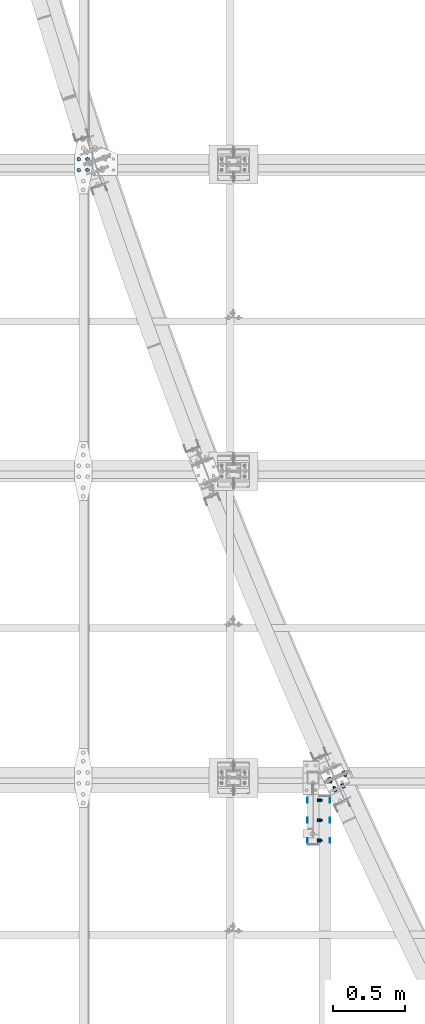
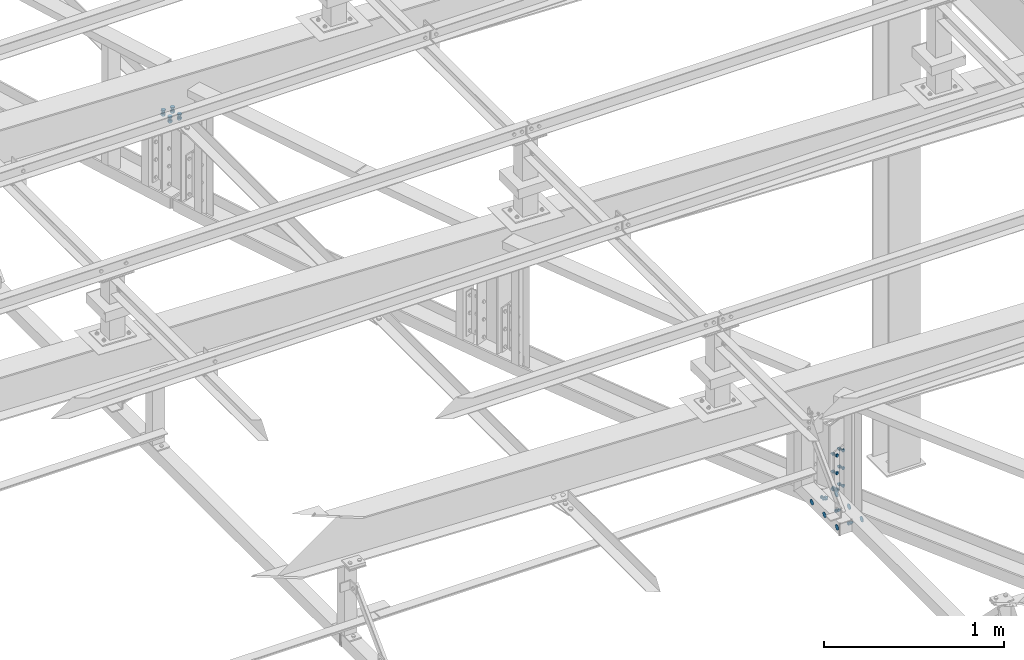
# One storey, part 49 of 3134: 6 mechanical fasteners, 5 elements without a shape of their own.
"""IFC2X3 building model written with IfcOpenShell, lengths in millimetres."""

from ifc_helpers import new_model, si_unit, frame, origin_with_axes, place, context, subcontext, project, spatial, faceted_brep, source, transform, mapped, material, type_object, element, aggregate, save


model = new_model("IFC2X3")

# Units and contexts
model_context = context("Model", 3, precision=1e-05, world=origin_with_axes())
body_context = subcontext(model_context, "Body", "Model", "MODEL_VIEW")
ifc_project = project(units=[si_unit("LENGTHUNIT", "METRE", prefix="MILLI"), si_unit("AREAUNIT", "SQUARE_METRE"), si_unit("VOLUMEUNIT", "CUBIC_METRE"), si_unit("MASSUNIT", "GRAM", prefix="KILO"), si_unit("TIMEUNIT", "SECOND"), si_unit("PLANEANGLEUNIT", "RADIAN"), si_unit("SOLIDANGLEUNIT", "STERADIAN"), si_unit("THERMODYNAMICTEMPERATUREUNIT", "DEGREE_CELSIUS"), si_unit("LUMINOUSINTENSITYUNIT", "LUMEN")], contexts=[model_context])

# Site, building, storey
site_placement = place(None, origin_with_axes())
site = spatial("IfcSite", under=ifc_project, at=site_placement, CompositionType="ELEMENT")
building_placement = place(site_placement, origin_with_axes())
building = spatial("IfcBuilding", under=site, at=building_placement, Name="Undefined", CompositionType="ELEMENT")
storey_placement = place(building_placement, origin_with_axes())
storey = spatial("IfcBuildingStorey", under=building, at=storey_placement, Name="Undefined", CompositionType="ELEMENT", Elevation=0.0)

# Assembly, mechanical fastener
assembly_1_placement = place(storey_placement, origin_with_axes())
assembly_1 = element("IfcElementAssembly", 1, at=assembly_1_placement, inside=storey, AssemblyPlace="NOTDEFINED", PredefinedType="RIGID_FRAME")
ifc_material = material(Name="8.8")
mechanical_fastener_type = type_object("IfcMechanicalFastenerType", Name="Bolt assembly")
shared_shape_1 = source(origin_with_axes(), body_context, "Body", "Brep", [
    faceted_brep([(16.5, -3.0, 0.0), (14.289419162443, -3.0, 8.25000000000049), (8.24999999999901, -3.0, 14.2894191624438), (-1.70995436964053e-12, -3.0, 16.5), (-8.25000000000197, -3.0, 14.2894191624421), (-14.2894191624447, -3.0, 8.24999999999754), (-16.5, -3.0, -3.41990873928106e-12), (-14.2894191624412, -3.0, -8.25000000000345), (-8.24999999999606, -3.0, -14.2894191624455), (5.11154442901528e-12, -3.0, -16.5), (8.25000000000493, -3.0, -14.2894191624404), (14.2894191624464, -3.0, -8.24999999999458), (14.2894191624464, 0.1, -8.24999999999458), (8.25000000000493, 0.1, -14.2894191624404), (5.11154442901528e-12, 0.1, -16.5), (-8.24999999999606, 0.1, -14.2894191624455), (-14.2894191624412, 0.1, -8.25000000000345), (-16.5, 0.1, -3.41990873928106e-12), (-14.2894191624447, 0.1, 8.24999999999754), (-8.25000000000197, 0.1, 14.2894191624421), (-1.70995436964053e-12, 0.1, 16.5), (8.24999999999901, 0.1, 14.2894191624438), (14.289419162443, 0.1, 8.25000000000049), (16.5, 0.1, 0.0)], [[[0, 1, 2, 3, 4, 5, 6, 7, 8, 9, 10, 11]], [[12, 13, 14, 15, 16, 17, 18, 19, 20, 21, 22, 23]], [[0, 23, 22, 1]], [[1, 22, 21, 2]], [[2, 21, 20, 3]], [[3, 20, 19, 4]], [[4, 19, 18, 5]], [[5, 18, 17, 6]], [[6, 17, 16, 7]], [[7, 16, 15, 8]], [[8, 15, 14, 9]], [[9, 14, 13, 10]], [[10, 13, 12, 11]], [[11, 12, 23, 0]]]),
])
mechanical_fastener_1_placement = place(assembly_1_placement, frame((6365.0, 15035.0, 3080.0), z_axis=(0.0, 0.0, 1.0), x_axis=(0.0, -1.0, 0.0)))
mechanical_fastener_1 = element("IfcMechanicalFastener", 2, at=mechanical_fastener_1_placement, type_object=mechanical_fastener_type, material=ifc_material, Name="Bolt assembly", NominalDiameter=30.0, NominalLength=3.0, context=body_context, shape_type="MappedRepresentation", body=[
    mapped(shared_shape_1, transform((0.0, 0.0, 0.0))),
    mapped(shared_shape_1, transform((140.0, 0.0, 0.0))),
    mapped(shared_shape_1, transform((280.0, 0.0, 0.0))),
])
aggregate(assembly_1, [mechanical_fastener_1])

# Assembly, mechanical fasteners
assembly_2_placement = place(storey_placement, origin_with_axes())
assembly_2 = element("IfcElementAssembly", 3, at=assembly_2_placement, inside=storey, AssemblyPlace="NOTDEFINED", PredefinedType="RIGID_FRAME")
shared_shape_2 = source(origin_with_axes(), body_context, "Body", "Brep", [
    faceted_brep([(16.5, 0.0, 0.0), (14.289419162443, 0.0, 8.25000000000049), (8.24999999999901, 0.0, 14.2894191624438), (-1.70995436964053e-12, 0.0, 16.5), (-8.25000000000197, 0.0, 14.2894191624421), (-14.2894191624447, 0.0, 8.24999999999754), (-16.5, 0.0, -3.41990873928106e-12), (-14.2894191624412, 0.0, -8.25000000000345), (-8.24999999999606, 0.0, -14.2894191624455), (5.11154442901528e-12, 0.0, -16.5), (8.25000000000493, 0.0, -14.2894191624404), (14.2894191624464, 0.0, -8.24999999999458), (14.2894191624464, 3.1, -8.24999999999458), (8.25000000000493, 3.1, -14.2894191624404), (5.11154442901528e-12, 3.1, -16.5), (-8.24999999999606, 3.1, -14.2894191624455), (-14.2894191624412, 3.1, -8.25000000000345), (-16.5, 3.1, -3.41990873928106e-12), (-14.2894191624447, 3.1, 8.24999999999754), (-8.25000000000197, 3.1, 14.2894191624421), (-1.70995436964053e-12, 3.1, 16.5), (8.24999999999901, 3.1, 14.2894191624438), (14.289419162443, 3.1, 8.25000000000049), (16.5, 3.1, 0.0)], [[[0, 1, 2, 3, 4, 5, 6, 7, 8, 9, 10, 11]], [[12, 13, 14, 15, 16, 17, 18, 19, 20, 21, 22, 23]], [[0, 23, 22, 1]], [[1, 22, 21, 2]], [[2, 21, 20, 3]], [[3, 20, 19, 4]], [[4, 19, 18, 5]], [[5, 18, 17, 6]], [[6, 17, 16, 7]], [[7, 16, 15, 8]], [[8, 15, 14, 9]], [[9, 14, 13, 10]], [[10, 13, 12, 11]], [[11, 12, 23, 0]]]),
])
mechanical_fastener_2_placement = place(assembly_2_placement, frame((6205.0, 15035.0, 3080.0), z_axis=(0.0, 0.0, 1.0), x_axis=(0.0, -1.0, 0.0)))
mechanical_fastener_2 = element("IfcMechanicalFastener", 4, at=mechanical_fastener_2_placement, type_object=mechanical_fastener_type, material=ifc_material, Name="Bolt assembly", NominalDiameter=30.0, NominalLength=3.0, context=body_context, shape_type="MappedRepresentation", body=[
    mapped(shared_shape_2, transform((0.0, 0.0, 0.0))),
    mapped(shared_shape_2, transform((140.0, 0.0, 0.0))),
    mapped(shared_shape_2, transform((280.0, 0.0, 0.0))),
])
shared_shape_3 = source(origin_with_axes(), body_context, "Body", "Brep", [
    faceted_brep([(10.9696551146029, -11.0, 0.0), (5.48482755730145, -11.0, 9.5), (-5.48482755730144, -11.0, 9.5), (-10.9696551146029, -11.0, 1.34339530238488e-15), (-5.48482755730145, -11.0, -9.5), (5.48482755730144, -11.0, -9.50000000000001), (5.48482755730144, -3.0, -9.50000000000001), (-5.48482755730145, -3.0, -9.5), (-10.9696551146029, -3.0, 1.34339530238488e-15), (-5.48482755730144, -3.0, 9.5), (5.48482755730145, -3.0, 9.5), (10.9696551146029, -3.0, 0.0), (6.0, -3.0, 0.0), (5.19615242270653, -3.0, 3.00000000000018), (2.99999999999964, -3.0, 5.19615242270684), (-6.21801588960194e-13, -3.0, 6.0), (-3.00000000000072, -3.0, 5.19615242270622), (-5.19615242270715, -3.0, 2.9999999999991), (-6.0, -3.0, -1.24360317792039e-12), (-5.19615242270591, -3.0, -3.00000000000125), (-2.99999999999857, -3.0, -5.19615242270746), (1.85874342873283e-12, -3.0, -6.0), (3.00000000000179, -3.0, -5.1961524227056), (5.19615242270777, -3.0, -2.99999999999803), (5.19615242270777, 22.0, -2.99999999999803), (3.00000000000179, 22.0, -5.1961524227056), (1.85874342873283e-12, 22.0, -6.0), (-2.99999999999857, 22.0, -5.19615242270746), (-5.19615242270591, 22.0, -3.00000000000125), (-6.0, 22.0, -1.24360317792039e-12), (-5.19615242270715, 22.0, 2.9999999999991), (-3.00000000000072, 22.0, 5.19615242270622), (-6.21801588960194e-13, 22.0, 6.0), (2.99999999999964, 22.0, 5.19615242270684), (5.19615242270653, 22.0, 3.00000000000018), (6.0, 22.0, 0.0), (10.9696551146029, 3.00000000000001, 0.0), (5.48482755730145, 3.00000000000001, 9.5), (-5.48482755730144, 3.00000000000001, 9.5), (-10.9696551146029, 3.00000000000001, 1.34339530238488e-15), (-5.48482755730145, 3.00000000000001, -9.5), (5.48482755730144, 3.00000000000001, -9.50000000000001), (5.48482755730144, 13.0, -9.50000000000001), (-5.48482755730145, 13.0, -9.5), (-10.9696551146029, 13.0, 1.34339530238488e-15), (-5.48482755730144, 13.0, 9.5), (5.48482755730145, 13.0, 9.5), (10.9696551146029, 13.0, 0.0)], [[[0, 1, 2, 3, 4, 5]], [[6, 7, 8, 9, 10, 11]], [[0, 11, 10, 1]], [[1, 10, 9, 2]], [[2, 9, 8, 3]], [[3, 8, 7, 4]], [[4, 7, 6, 5]], [[5, 6, 11, 0]], [[12, 13, 14, 15, 16, 17, 18, 19, 20, 21, 22, 23]], [[24, 25, 26, 27, 28, 29, 30, 31, 32, 33, 34, 35]], [[12, 35, 34, 13]], [[13, 34, 33, 14]], [[14, 33, 32, 15]], [[15, 32, 31, 16]], [[16, 31, 30, 17]], [[17, 30, 29, 18]], [[18, 29, 28, 19]], [[19, 28, 27, 20]], [[20, 27, 26, 21]], [[21, 26, 25, 22]], [[22, 25, 24, 23]], [[23, 24, 35, 12]], [[36, 37, 38, 39, 40, 41]], [[42, 43, 44, 45, 46, 47]], [[36, 47, 46, 37]], [[37, 46, 45, 38]], [[38, 45, 44, 39]], [[39, 44, 43, 40]], [[40, 43, 42, 41]], [[41, 42, 47, 36]]]),
    faceted_brep([(7.0, -0.1, 0.0), (6.06217782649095, -0.1, 3.50000000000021), (3.49999999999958, -0.1, 6.06217782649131), (-7.25435187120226e-13, -0.1, 7.0), (-3.50000000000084, -0.1, 6.06217782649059), (-6.06217782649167, -0.1, 3.49999999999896), (-7.0, -0.1, -1.45087037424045e-12), (-6.06217782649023, -0.1, -3.50000000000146), (-3.49999999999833, -0.1, -6.06217782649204), (2.1685340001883e-12, -0.1, -7.0), (3.50000000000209, -0.1, -6.06217782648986), (6.0621778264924, -0.1, -3.4999999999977), (6.0621778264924, 3.0, -3.4999999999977), (3.50000000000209, 3.0, -6.06217782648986), (2.1685340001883e-12, 3.0, -7.0), (-3.49999999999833, 3.0, -6.06217782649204), (-6.06217782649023, 3.0, -3.50000000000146), (-7.0, 3.0, -1.45087037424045e-12), (-6.06217782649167, 3.0, 3.49999999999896), (-3.50000000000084, 3.0, 6.06217782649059), (-7.25435187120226e-13, 3.0, 7.0), (3.49999999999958, 3.0, 6.06217782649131), (6.06217782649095, 3.0, 3.50000000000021), (7.0, 3.0, 0.0), (7.0, -2.9, 0.0), (6.06217782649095, -2.9, 3.50000000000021), (3.49999999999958, -2.9, 6.06217782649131), (-7.25435187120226e-13, -2.9, 7.0), (-3.50000000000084, -2.9, 6.06217782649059), (-6.06217782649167, -2.9, 3.49999999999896), (-7.0, -2.9, -1.45087037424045e-12), (-6.06217782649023, -2.9, -3.50000000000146), (-3.49999999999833, -2.9, -6.06217782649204), (2.1685340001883e-12, -2.9, -7.0), (3.50000000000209, -2.9, -6.06217782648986), (6.0621778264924, -2.9, -3.4999999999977), (6.0621778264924, 0.0999999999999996, -3.4999999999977), (3.50000000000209, 0.0999999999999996, -6.06217782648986), (2.1685340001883e-12, 0.0999999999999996, -7.0), (-3.49999999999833, 0.0999999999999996, -6.06217782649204), (-6.06217782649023, 0.0999999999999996, -3.50000000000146), (-7.0, 0.0999999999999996, -1.45087037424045e-12), (-6.06217782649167, 0.0999999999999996, 3.49999999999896), (-3.50000000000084, 0.0999999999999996, 6.06217782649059), (-7.25435187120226e-13, 0.0999999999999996, 7.0), (3.49999999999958, 0.0999999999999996, 6.06217782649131), (6.06217782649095, 0.0999999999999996, 3.50000000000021), (7.0, 0.0999999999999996, 0.0)], [[[0, 1, 2, 3, 4, 5, 6, 7, 8, 9, 10, 11]], [[12, 13, 14, 15, 16, 17, 18, 19, 20, 21, 22, 23]], [[0, 23, 22, 1]], [[1, 22, 21, 2]], [[2, 21, 20, 3]], [[3, 20, 19, 4]], [[4, 19, 18, 5]], [[5, 18, 17, 6]], [[6, 17, 16, 7]], [[7, 16, 15, 8]], [[8, 15, 14, 9]], [[9, 14, 13, 10]], [[10, 13, 12, 11]], [[11, 12, 23, 0]], [[24, 25, 26, 27, 28, 29, 30, 31, 32, 33, 34, 35]], [[36, 37, 38, 39, 40, 41, 42, 43, 44, 45, 46, 47]], [[24, 47, 46, 25]], [[25, 46, 45, 26]], [[26, 45, 44, 27]], [[27, 44, 43, 28]], [[28, 43, 42, 29]], [[29, 42, 41, 30]], [[30, 41, 40, 31]], [[31, 40, 39, 32]], [[32, 39, 38, 33]], [[33, 38, 37, 34]], [[34, 37, 36, 35]], [[35, 36, 47, 24]]]),
])
mechanical_fastener_3_placement = place(assembly_2_placement, frame((6285.0, 15035.0, 3080.0), z_axis=(0.0, 0.0, 1.0), x_axis=(0.0, -1.0, 0.0)))
mechanical_fastener_3 = element("IfcMechanicalFastener", 5, at=mechanical_fastener_3_placement, type_object=mechanical_fastener_type, material=ifc_material, Name="Bolt assembly", NominalDiameter=12.0, NominalLength=25.0, context=body_context, shape_type="MappedRepresentation", body=[
    mapped(shared_shape_3, transform((0.0, 0.0, 0.0))),
    mapped(shared_shape_3, transform((140.0, 0.0, 0.0))),
    mapped(shared_shape_3, transform((280.0, 0.0, 0.0))),
])
aggregate(assembly_2, [mechanical_fastener_2, mechanical_fastener_3])

# Assembly, mechanical fastener
assembly_3_placement = place(storey_placement, origin_with_axes())
assembly_3 = element("IfcElementAssembly", 6, at=assembly_3_placement, inside=storey, Name="HEA160", AssemblyPlace="NOTDEFINED", PredefinedType="RIGID_FRAME")
shared_shape_4 = source(origin_with_axes(), body_context, "Body", "Brep", [
    faceted_brep([(10.9696551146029, -16.0, 0.0), (5.48482755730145, -16.0, 9.5), (-5.48482755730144, -16.0, 9.5), (-10.9696551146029, -16.0, 1.34339530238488e-15), (-5.48482755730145, -16.0, -9.5), (5.48482755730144, -16.0, -9.50000000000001), (5.48482755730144, -8.0, -9.50000000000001), (-5.48482755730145, -8.0, -9.5), (-10.9696551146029, -8.0, 1.34339530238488e-15), (-5.48482755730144, -8.0, 9.5), (5.48482755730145, -8.0, 9.5), (10.9696551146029, -8.0, 0.0), (6.0, -8.0, 0.0), (5.19615242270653, -8.0, 3.00000000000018), (2.99999999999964, -8.0, 5.19615242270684), (-6.21801588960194e-13, -8.0, 6.0), (-3.00000000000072, -8.0, 5.19615242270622), (-5.19615242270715, -8.0, 2.9999999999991), (-6.0, -8.0, -1.24360317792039e-12), (-5.19615242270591, -8.0, -3.00000000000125), (-2.99999999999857, -8.0, -5.19615242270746), (1.85874342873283e-12, -8.0, -6.0), (3.00000000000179, -8.0, -5.1961524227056), (5.19615242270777, -8.0, -2.99999999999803), (5.19615242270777, 27.0, -2.99999999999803), (3.00000000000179, 27.0, -5.1961524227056), (1.85874342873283e-12, 27.0, -6.0), (-2.99999999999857, 27.0, -5.19615242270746), (-5.19615242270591, 27.0, -3.00000000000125), (-6.0, 27.0, -1.24360317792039e-12), (-5.19615242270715, 27.0, 2.9999999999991), (-3.00000000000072, 27.0, 5.19615242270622), (-6.21801588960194e-13, 27.0, 6.0), (2.99999999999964, 27.0, 5.19615242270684), (5.19615242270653, 27.0, 3.00000000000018), (6.0, 27.0, 0.0), (10.9696551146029, 9.00000000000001, 0.0), (5.48482755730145, 9.00000000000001, 9.5), (-5.48482755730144, 9.00000000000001, 9.5), (-10.9696551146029, 9.00000000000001, 1.34339530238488e-15), (-5.48482755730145, 9.00000000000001, -9.5), (5.48482755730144, 9.00000000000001, -9.50000000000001), (5.48482755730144, 19.0, -9.50000000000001), (-5.48482755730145, 19.0, -9.5), (-10.9696551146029, 19.0, 1.34339530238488e-15), (-5.48482755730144, 19.0, 9.5), (5.48482755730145, 19.0, 9.5), (10.9696551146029, 19.0, 0.0)], [[[0, 1, 2, 3, 4, 5]], [[6, 7, 8, 9, 10, 11]], [[0, 11, 10, 1]], [[1, 10, 9, 2]], [[2, 9, 8, 3]], [[3, 8, 7, 4]], [[4, 7, 6, 5]], [[5, 6, 11, 0]], [[12, 13, 14, 15, 16, 17, 18, 19, 20, 21, 22, 23]], [[24, 25, 26, 27, 28, 29, 30, 31, 32, 33, 34, 35]], [[12, 35, 34, 13]], [[13, 34, 33, 14]], [[14, 33, 32, 15]], [[15, 32, 31, 16]], [[16, 31, 30, 17]], [[17, 30, 29, 18]], [[18, 29, 28, 19]], [[19, 28, 27, 20]], [[20, 27, 26, 21]], [[21, 26, 25, 22]], [[22, 25, 24, 23]], [[23, 24, 35, 12]], [[36, 37, 38, 39, 40, 41]], [[42, 43, 44, 45, 46, 47]], [[36, 47, 46, 37]], [[37, 46, 45, 38]], [[38, 45, 44, 39]], [[39, 44, 43, 40]], [[40, 43, 42, 41]], [[41, 42, 47, 36]]]),
    faceted_brep([(7.0, -7.9, 0.0), (6.06217782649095, -7.9, 3.50000000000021), (3.49999999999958, -7.9, 6.06217782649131), (-7.25435187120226e-13, -7.9, 7.0), (-3.50000000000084, -7.9, 6.06217782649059), (-6.06217782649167, -7.9, 3.49999999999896), (-7.0, -7.9, -1.45087037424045e-12), (-6.06217782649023, -7.9, -3.50000000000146), (-3.49999999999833, -7.9, -6.06217782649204), (2.1685340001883e-12, -7.9, -7.0), (3.50000000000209, -7.9, -6.06217782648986), (6.0621778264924, -7.9, -3.4999999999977), (6.0621778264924, 0.0999999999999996, -3.4999999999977), (3.50000000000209, 0.0999999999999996, -6.06217782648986), (2.1685340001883e-12, 0.0999999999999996, -7.0), (-3.49999999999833, 0.0999999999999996, -6.06217782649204), (-6.06217782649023, 0.0999999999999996, -3.50000000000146), (-7.0, 0.0999999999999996, -1.45087037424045e-12), (-6.06217782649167, 0.0999999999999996, 3.49999999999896), (-3.50000000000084, 0.0999999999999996, 6.06217782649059), (-7.25435187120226e-13, 0.0999999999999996, 7.0), (3.49999999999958, 0.0999999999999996, 6.06217782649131), (6.06217782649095, 0.0999999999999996, 3.50000000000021), (7.0, 0.0999999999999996, 0.0), (7.0, -0.1, 0.0), (6.06217782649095, -0.1, 3.50000000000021), (3.49999999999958, -0.1, 6.06217782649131), (-7.25435187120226e-13, -0.1, 7.0), (-3.50000000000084, -0.1, 6.06217782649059), (-6.06217782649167, -0.1, 3.49999999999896), (-7.0, -0.1, -1.45087037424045e-12), (-6.06217782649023, -0.1, -3.50000000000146), (-3.49999999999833, -0.1, -6.06217782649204), (2.1685340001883e-12, -0.1, -7.0), (3.50000000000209, -0.1, -6.06217782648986), (6.0621778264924, -0.1, -3.4999999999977), (6.0621778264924, 9.00000000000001, -3.4999999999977), (3.50000000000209, 9.00000000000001, -6.06217782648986), (2.1685340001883e-12, 9.00000000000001, -7.0), (-3.49999999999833, 9.00000000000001, -6.06217782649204), (-6.06217782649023, 9.00000000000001, -3.50000000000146), (-7.0, 9.00000000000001, -1.45087037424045e-12), (-6.06217782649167, 9.00000000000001, 3.49999999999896), (-3.50000000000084, 9.00000000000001, 6.06217782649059), (-7.25435187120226e-13, 9.00000000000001, 7.0), (3.49999999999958, 9.00000000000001, 6.06217782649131), (6.06217782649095, 9.00000000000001, 3.50000000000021), (7.0, 9.00000000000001, 0.0)], [[[0, 1, 2, 3, 4, 5, 6, 7, 8, 9, 10, 11]], [[12, 13, 14, 15, 16, 17, 18, 19, 20, 21, 22, 23]], [[0, 23, 22, 1]], [[1, 22, 21, 2]], [[2, 21, 20, 3]], [[3, 20, 19, 4]], [[4, 19, 18, 5]], [[5, 18, 17, 6]], [[6, 17, 16, 7]], [[7, 16, 15, 8]], [[8, 15, 14, 9]], [[9, 14, 13, 10]], [[10, 13, 12, 11]], [[11, 12, 23, 0]], [[24, 25, 26, 27, 28, 29, 30, 31, 32, 33, 34, 35]], [[36, 37, 38, 39, 40, 41, 42, 43, 44, 45, 46, 47]], [[24, 47, 46, 25]], [[25, 46, 45, 26]], [[26, 45, 44, 27]], [[27, 44, 43, 28]], [[28, 43, 42, 29]], [[29, 42, 41, 30]], [[30, 41, 40, 31]], [[31, 40, 39, 32]], [[32, 39, 38, 33]], [[33, 38, 37, 34]], [[34, 37, 36, 35]], [[35, 36, 47, 24]]]),
])
mechanical_fastener_4_placement = place(assembly_3_placement, frame((6398.11553624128, 15108.3845316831, 3170.0), z_axis=(0.0, 0.0, 1.0), x_axis=(0.911760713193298, 0.410721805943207, 0.0)))
mechanical_fastener_4 = element("IfcMechanicalFastener", 7, at=mechanical_fastener_4_placement, type_object=mechanical_fastener_type, material=ifc_material, Name="Bolt assembly", NominalDiameter=12.0, NominalLength=35.0, context=body_context, shape_type="MappedRepresentation", body=[
    mapped(shared_shape_4, transform((0.0, 0.0, -120.0))),
    mapped(shared_shape_4, transform((60.0000000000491, 0.0, -120.0))),
    mapped(shared_shape_4, transform((0.0, 0.0, 0.0))),
    mapped(shared_shape_4, transform((59.9999999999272, 0.0, 5.40239852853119e-10))),
    mapped(shared_shape_4, transform((0.0, 0.0, 120.0))),
    mapped(shared_shape_4, transform((60.0000000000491, 0.0, 120.0))),
])
aggregate(assembly_3, [mechanical_fastener_4])

assembly_4_placement = place(storey_placement, origin_with_axes())
assembly_4 = element("IfcElementAssembly", 8, at=assembly_4_placement, inside=storey, Name="UPN200", AssemblyPlace="NOTDEFINED", PredefinedType="RIGID_FRAME")
shared_shape_5 = source(origin_with_axes(), body_context, "Body", "Brep", [
    faceted_brep([(10.9696551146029, -18.0, 0.0), (5.48482755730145, -18.0, 9.5), (-5.48482755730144, -18.0, 9.5), (-10.9696551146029, -18.0, 1.34339530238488e-15), (-5.48482755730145, -18.0, -9.5), (5.48482755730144, -18.0, -9.50000000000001), (5.48482755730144, -10.0, -9.50000000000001), (-5.48482755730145, -10.0, -9.5), (-10.9696551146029, -10.0, 1.34339530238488e-15), (-5.48482755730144, -10.0, 9.5), (5.48482755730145, -10.0, 9.5), (10.9696551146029, -10.0, 0.0), (6.0, -10.0, 0.0), (5.19615242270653, -10.0, 3.00000000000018), (2.99999999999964, -10.0, 5.19615242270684), (-6.21801588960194e-13, -10.0, 6.0), (-3.00000000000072, -10.0, 5.19615242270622), (-5.19615242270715, -10.0, 2.9999999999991), (-6.0, -10.0, -1.24360317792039e-12), (-5.19615242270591, -10.0, -3.00000000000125), (-2.99999999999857, -10.0, -5.19615242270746), (1.85874342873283e-12, -10.0, -6.0), (3.00000000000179, -10.0, -5.1961524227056), (5.19615242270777, -10.0, -2.99999999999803), (5.19615242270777, 24.9999999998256, -2.99999999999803), (3.00000000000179, 24.9999999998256, -5.1961524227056), (1.85874342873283e-12, 24.9999999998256, -6.0), (-2.99999999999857, 24.9999999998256, -5.19615242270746), (-5.19615242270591, 24.9999999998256, -3.00000000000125), (-6.0, 24.9999999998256, -1.24360317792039e-12), (-5.19615242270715, 24.9999999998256, 2.9999999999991), (-3.00000000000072, 24.9999999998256, 5.19615242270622), (-6.21801588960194e-13, 24.9999999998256, 6.0), (2.99999999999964, 24.9999999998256, 5.19615242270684), (5.19615242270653, 24.9999999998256, 3.00000000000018), (6.0, 24.9999999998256, 0.0), (10.9696551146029, 10.0, 0.0), (5.48482755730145, 10.0, 9.5), (-5.48482755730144, 10.0, 9.5), (-10.9696551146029, 10.0, 1.34339530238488e-15), (-5.48482755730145, 10.0, -9.5), (5.48482755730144, 10.0, -9.50000000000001), (5.48482755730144, 20.0, -9.50000000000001), (-5.48482755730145, 20.0, -9.5), (-10.9696551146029, 20.0, 1.34339530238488e-15), (-5.48482755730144, 20.0, 9.5), (5.48482755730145, 20.0, 9.5), (10.9696551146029, 20.0, 0.0)], [[[0, 1, 2, 3, 4, 5]], [[6, 7, 8, 9, 10, 11]], [[0, 11, 10, 1]], [[1, 10, 9, 2]], [[2, 9, 8, 3]], [[3, 8, 7, 4]], [[4, 7, 6, 5]], [[5, 6, 11, 0]], [[12, 13, 14, 15, 16, 17, 18, 19, 20, 21, 22, 23]], [[24, 25, 26, 27, 28, 29, 30, 31, 32, 33, 34, 35]], [[12, 35, 34, 13]], [[13, 34, 33, 14]], [[14, 33, 32, 15]], [[15, 32, 31, 16]], [[16, 31, 30, 17]], [[17, 30, 29, 18]], [[18, 29, 28, 19]], [[19, 28, 27, 20]], [[20, 27, 26, 21]], [[21, 26, 25, 22]], [[22, 25, 24, 23]], [[23, 24, 35, 12]], [[36, 37, 38, 39, 40, 41]], [[42, 43, 44, 45, 46, 47]], [[36, 47, 46, 37]], [[37, 46, 45, 38]], [[38, 45, 44, 39]], [[39, 44, 43, 40]], [[40, 43, 42, 41]], [[41, 42, 47, 36]]]),
    faceted_brep([(7.0, -0.1, 0.0), (6.06217782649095, -0.1, 3.50000000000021), (3.49999999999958, -0.1, 6.06217782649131), (-7.25435187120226e-13, -0.1, 7.0), (-3.50000000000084, -0.1, 6.06217782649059), (-6.06217782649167, -0.1, 3.49999999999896), (-7.0, -0.1, -1.45087037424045e-12), (-6.06217782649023, -0.1, -3.50000000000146), (-3.49999999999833, -0.1, -6.06217782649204), (2.1685340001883e-12, -0.1, -7.0), (3.50000000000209, -0.1, -6.06217782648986), (6.0621778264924, -0.1, -3.4999999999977), (6.0621778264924, 10.0, -3.4999999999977), (3.50000000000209, 10.0, -6.06217782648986), (2.1685340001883e-12, 10.0, -7.0), (-3.49999999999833, 10.0, -6.06217782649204), (-6.06217782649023, 10.0, -3.50000000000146), (-7.0, 10.0, -1.45087037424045e-12), (-6.06217782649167, 10.0, 3.49999999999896), (-3.50000000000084, 10.0, 6.06217782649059), (-7.25435187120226e-13, 10.0, 7.0), (3.49999999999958, 10.0, 6.06217782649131), (6.06217782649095, 10.0, 3.50000000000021), (7.0, 10.0, 0.0), (7.0, -9.89999913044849, 0.0), (6.06217782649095, -9.89999913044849, 3.50000000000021), (3.49999999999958, -9.89999913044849, 6.06217782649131), (-7.25435187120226e-13, -9.89999913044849, 7.0), (-3.50000000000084, -9.89999913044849, 6.06217782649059), (-6.06217782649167, -9.89999913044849, 3.49999999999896), (-7.0, -9.89999913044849, -1.45087037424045e-12), (-6.06217782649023, -9.89999913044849, -3.50000000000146), (-3.49999999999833, -9.89999913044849, -6.06217782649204), (2.1685340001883e-12, -9.89999913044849, -7.0), (3.50000000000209, -9.89999913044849, -6.06217782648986), (6.0621778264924, -9.89999913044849, -3.4999999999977), (6.0621778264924, 0.0999999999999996, -3.4999999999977), (3.50000000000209, 0.0999999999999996, -6.06217782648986), (2.1685340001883e-12, 0.0999999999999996, -7.0), (-3.49999999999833, 0.0999999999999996, -6.06217782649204), (-6.06217782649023, 0.0999999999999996, -3.50000000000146), (-7.0, 0.0999999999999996, -1.45087037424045e-12), (-6.06217782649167, 0.0999999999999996, 3.49999999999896), (-3.50000000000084, 0.0999999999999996, 6.06217782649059), (-7.25435187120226e-13, 0.0999999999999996, 7.0), (3.49999999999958, 0.0999999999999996, 6.06217782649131), (6.06217782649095, 0.0999999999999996, 3.50000000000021), (7.0, 0.0999999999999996, 0.0)], [[[0, 1, 2, 3, 4, 5, 6, 7, 8, 9, 10, 11]], [[12, 13, 14, 15, 16, 17, 18, 19, 20, 21, 22, 23]], [[0, 23, 22, 1]], [[1, 22, 21, 2]], [[2, 21, 20, 3]], [[3, 20, 19, 4]], [[4, 19, 18, 5]], [[5, 18, 17, 6]], [[6, 17, 16, 7]], [[7, 16, 15, 8]], [[8, 15, 14, 9]], [[9, 14, 13, 10]], [[10, 13, 12, 11]], [[11, 12, 23, 0]], [[24, 25, 26, 27, 28, 29, 30, 31, 32, 33, 34, 35]], [[36, 37, 38, 39, 40, 41, 42, 43, 44, 45, 46, 47]], [[24, 47, 46, 25]], [[25, 46, 45, 26]], [[26, 45, 44, 27]], [[27, 44, 43, 28]], [[28, 43, 42, 29]], [[29, 42, 41, 30]], [[30, 41, 40, 31]], [[31, 40, 39, 32]], [[32, 39, 38, 33]], [[33, 38, 37, 34]], [[34, 37, 36, 35]], [[35, 36, 47, 24]]]),
])
mechanical_fastener_5_placement = place(assembly_4_placement, frame((6462.11569157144, 15220.5813872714, 2970.6416050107), z_axis=(-1.97000019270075e-05, 6.22000060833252e-05, 0.999999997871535), x_axis=(-0.911760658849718, -0.4107219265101, 7.60000049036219e-06)))
mechanical_fastener_5 = element("IfcMechanicalFastener", 9, at=mechanical_fastener_5_placement, type_object=mechanical_fastener_type, material=ifc_material, Name="Bolt assembly", NominalDiameter=12.0, NominalLength=35.0, context=body_context, shape_type="MappedRepresentation", body=[
    mapped(shared_shape_5, transform((0.0, 0.0, 0.0))),
    mapped(shared_shape_5, transform((110.0, 0.0, 0.0))),
])
aggregate(assembly_4, [mechanical_fastener_5])

assembly_5_placement = place(storey_placement, origin_with_axes())
assembly_5 = element("IfcElementAssembly", 10, at=assembly_5_placement, inside=storey, Name="PL8", AssemblyPlace="NOTDEFINED", PredefinedType="RIGID_FRAME")
shared_shape_6 = source(origin_with_axes(), body_context, "Body", "Brep", [
    faceted_brep([(13.856406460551, -23.2000817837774, 0.0), (6.92820323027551, -23.2000817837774, 12.0), (-6.92820323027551, -23.2000817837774, 12.0), (-13.856406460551, -23.2000817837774, 1.69692038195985e-15), (-6.92820323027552, -23.2000817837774, -12.0), (6.9282032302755, -23.2000817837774, -12.0), (6.9282032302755, -13.2000817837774, -12.0), (-6.92820323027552, -13.2000817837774, -12.0), (-13.856406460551, -13.2000817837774, 1.69692038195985e-15), (-6.92820323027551, -13.2000817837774, 12.0), (6.92820323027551, -13.2000817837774, 12.0), (13.856406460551, -13.2000817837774, 0.0), (8.0, -13.2000817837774, 0.0), (6.92820323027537, -13.2000817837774, 4.00000000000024), (3.99999999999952, -13.2000817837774, 6.92820323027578), (-8.29068785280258e-13, -13.2000817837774, 8.0), (-4.00000000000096, -13.2000817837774, 6.92820323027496), (-6.9282032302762, -13.2000817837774, 3.99999999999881), (-8.0, -13.2000817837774, -1.65813757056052e-12), (-6.92820323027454, -13.2000817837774, -4.00000000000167), (-3.99999999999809, -13.2000817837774, -6.92820323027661), (2.47832457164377e-12, -13.2000817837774, -8.0), (4.00000000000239, -13.2000817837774, -6.92820323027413), (6.92820323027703, -13.2000817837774, -3.99999999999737), (6.92820323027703, 21.7999182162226, -3.99999999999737), (4.00000000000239, 21.7999182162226, -6.92820323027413), (2.47832457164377e-12, 21.7999182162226, -8.0), (-3.99999999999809, 21.7999182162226, -6.92820323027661), (-6.92820323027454, 21.7999182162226, -4.00000000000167), (-8.0, 21.7999182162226, -1.65813757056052e-12), (-6.9282032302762, 21.7999182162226, 3.99999999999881), (-4.00000000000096, 21.7999182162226, 6.92820323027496), (-8.29068785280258e-13, 21.7999182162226, 8.0), (3.99999999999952, 21.7999182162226, 6.92820323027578), (6.92820323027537, 21.7999182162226, 4.00000000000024), (8.0, 21.7999182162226, 0.0), (13.856406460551, 3.99999999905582, 0.0), (6.92820323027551, 3.99999999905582, 12.0), (-6.92820323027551, 3.99999999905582, 12.0), (-13.856406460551, 3.99999999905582, 1.69692038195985e-15), (-6.92820323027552, 3.99999999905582, -12.0), (6.9282032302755, 3.99999999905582, -12.0), (6.9282032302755, 16.9999999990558, -12.0), (-6.92820323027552, 16.9999999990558, -12.0), (-13.856406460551, 16.9999999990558, 1.69692038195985e-15), (-6.92820323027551, 16.9999999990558, 12.0), (6.92820323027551, 16.9999999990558, 12.0), (13.856406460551, 16.9999999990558, 0.0)], [[[0, 1, 2, 3, 4, 5]], [[6, 7, 8, 9, 10, 11]], [[0, 11, 10, 1]], [[1, 10, 9, 2]], [[2, 9, 8, 3]], [[3, 8, 7, 4]], [[4, 7, 6, 5]], [[5, 6, 11, 0]], [[12, 13, 14, 15, 16, 17, 18, 19, 20, 21, 22, 23]], [[24, 25, 26, 27, 28, 29, 30, 31, 32, 33, 34, 35]], [[12, 35, 34, 13]], [[13, 34, 33, 14]], [[14, 33, 32, 15]], [[15, 32, 31, 16]], [[16, 31, 30, 17]], [[17, 30, 29, 18]], [[18, 29, 28, 19]], [[19, 28, 27, 20]], [[20, 27, 26, 21]], [[21, 26, 25, 22]], [[22, 25, 24, 23]], [[23, 24, 35, 12]], [[36, 37, 38, 39, 40, 41]], [[42, 43, 44, 45, 46, 47]], [[36, 47, 46, 37]], [[37, 46, 45, 38]], [[38, 45, 44, 39]], [[39, 44, 43, 40]], [[40, 43, 42, 41]], [[41, 42, 47, 36]]]),
    faceted_brep([(9.0, -13.1000817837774, 0.0), (7.79422863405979, -13.1000817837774, 4.50000000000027), (4.49999999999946, -13.1000817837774, 7.79422863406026), (-9.3270238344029e-13, -13.1000817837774, 9.0), (-4.50000000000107, -13.1000817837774, 7.79422863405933), (-7.79422863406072, -13.1000817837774, 4.49999999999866), (-9.0, -13.1000817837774, -1.86540476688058e-12), (-7.79422863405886, -13.1000817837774, -4.50000000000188), (-4.49999999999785, -13.1000817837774, -7.79422863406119), (2.78811514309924e-12, -13.1000817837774, -9.0), (4.50000000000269, -13.1000817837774, -7.7942286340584), (7.79422863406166, -13.1000817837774, -4.49999999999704), (7.79422863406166, -3.90008197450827, -4.49999999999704), (4.50000000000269, -3.90008197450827, -7.7942286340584), (2.78811514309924e-12, -3.90008197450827, -9.0), (-4.49999999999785, -3.90008197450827, -7.79422863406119), (-7.79422863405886, -3.90008197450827, -4.50000000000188), (-9.0, -3.90008197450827, -1.86540476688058e-12), (-7.79422863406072, -3.90008197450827, 4.49999999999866), (-4.50000000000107, -3.90008197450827, 7.79422863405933), (-9.3270238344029e-13, -3.90008197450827, 9.0), (4.49999999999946, -3.90008197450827, 7.79422863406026), (7.79422863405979, -3.90008197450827, 4.50000000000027), (9.0, -3.90008197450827, 0.0), (9.0, -4.10000000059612, 0.0), (7.79422863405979, -4.10000000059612, 4.50000000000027), (4.49999999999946, -4.10000000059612, 7.79422863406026), (-9.3270238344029e-13, -4.10000000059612, 9.0), (-4.50000000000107, -4.10000000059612, 7.79422863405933), (-7.79422863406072, -4.10000000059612, 4.49999999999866), (-9.0, -4.10000000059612, -1.86540476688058e-12), (-7.79422863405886, -4.10000000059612, -4.50000000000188), (-4.49999999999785, -4.10000000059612, -7.79422863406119), (2.78811514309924e-12, -4.10000000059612, -9.0), (4.50000000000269, -4.10000000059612, -7.7942286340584), (7.79422863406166, -4.10000000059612, -4.49999999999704), (7.79422863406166, 4.00000375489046, -4.49999999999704), (4.50000000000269, 4.00000375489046, -7.7942286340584), (2.78811514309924e-12, 4.00000375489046, -9.0), (-4.49999999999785, 4.00000375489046, -7.79422863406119), (-7.79422863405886, 4.00000375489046, -4.50000000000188), (-9.0, 4.00000375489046, -1.86540476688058e-12), (-7.79422863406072, 4.00000375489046, 4.49999999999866), (-4.50000000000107, 4.00000375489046, 7.79422863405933), (-9.3270238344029e-13, 4.00000375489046, 9.0), (4.49999999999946, 4.00000375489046, 7.79422863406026), (7.79422863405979, 4.00000375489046, 4.50000000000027), (9.0, 4.00000375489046, 0.0)], [[[0, 1, 2, 3, 4, 5, 6, 7, 8, 9, 10, 11]], [[12, 13, 14, 15, 16, 17, 18, 19, 20, 21, 22, 23]], [[0, 23, 22, 1]], [[1, 22, 21, 2]], [[2, 21, 20, 3]], [[3, 20, 19, 4]], [[4, 19, 18, 5]], [[5, 18, 17, 6]], [[6, 17, 16, 7]], [[7, 16, 15, 8]], [[8, 15, 14, 9]], [[9, 14, 13, 10]], [[10, 13, 12, 11]], [[11, 12, 23, 0]], [[24, 25, 26, 27, 28, 29, 30, 31, 32, 33, 34, 35]], [[36, 37, 38, 39, 40, 41, 42, 43, 44, 45, 46, 47]], [[24, 47, 46, 25]], [[25, 46, 45, 26]], [[26, 45, 44, 27]], [[27, 44, 43, 28]], [[28, 43, 42, 29]], [[29, 42, 41, 30]], [[30, 41, 40, 31]], [[31, 40, 39, 32]], [[32, 39, 38, 33]], [[33, 38, 37, 34]], [[34, 37, 36, 35]], [[35, 36, 47, 24]]]),
])
mechanical_fastener_6_placement = place(assembly_5_placement, frame((4647.50483519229, 19412.0, 3576.15051900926), z_axis=(-0.999388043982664, 0.0, 0.0349791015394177), x_axis=(0.0, 1.0, 0.0)))
mechanical_fastener_6 = element("IfcMechanicalFastener", 11, at=mechanical_fastener_6_placement, type_object=mechanical_fastener_type, material=ifc_material, Name="Bolt assembly", NominalDiameter=16.0, NominalLength=35.0, context=body_context, shape_type="MappedRepresentation", body=[
    mapped(shared_shape_6, transform((0.0, 4.54747350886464e-13, -30.0000000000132))),
    mapped(shared_shape_6, transform((76.0, -2.00088834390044e-10, -29.9999999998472))),
    mapped(shared_shape_6, transform((0.0, 4.54747350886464e-13, 30.0000000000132))),
    mapped(shared_shape_6, transform((76.0, 1.98269844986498e-10, 29.9999999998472))),
])
aggregate(assembly_5, [mechanical_fastener_6])

save(model, "model.ifc")
